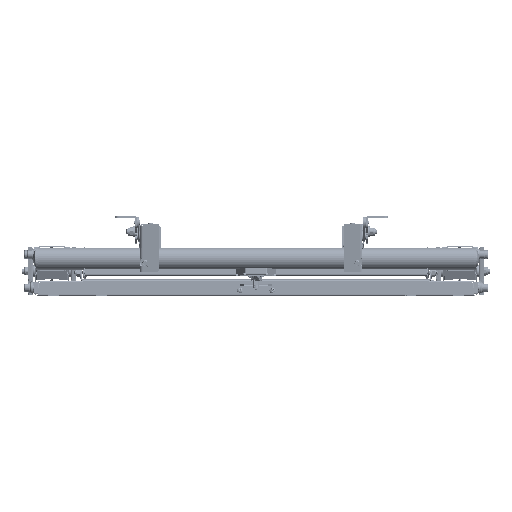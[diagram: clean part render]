
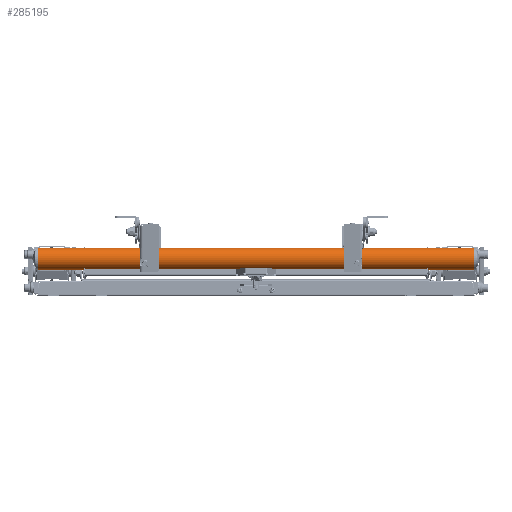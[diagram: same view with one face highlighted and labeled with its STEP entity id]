
A CAD part, front view. The second image highlights one B-rep face of the part: STEP entity #285195.
In plain terms, the highlighted cylindrical face has radius 17.462 mm (diameter 34.925 mm), a partial arc.
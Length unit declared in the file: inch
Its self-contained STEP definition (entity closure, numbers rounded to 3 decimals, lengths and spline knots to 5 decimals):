
#17898 = VERTEX_POINT ( 'NONE', #345858 ) ;
#20085 = LINE ( 'NONE', #391980, #29626 ) ;
#25458 = CARTESIAN_POINT ( 'NONE',  ( 0., 0., 13.47 ) ) ;
#29626 = VECTOR ( 'NONE', #208945, 39.37008 ) ;
#45612 = EDGE_LOOP ( 'NONE', ( #158399, #168274, #143125, #281631 ) ) ;
#56106 = EDGE_CURVE ( 'NONE', #384491, #103528, #311392, .T. ) ;
#56195 = DIRECTION ( 'NONE',  ( -1., 0., 0. ) ) ;
#56353 = LINE ( 'NONE', #132022, #128043 ) ;
#58953 = EDGE_CURVE ( 'NONE', #152020, #17898, #391955, .T. ) ;
#68373 = EDGE_CURVE ( 'NONE', #152020, #384491, #20085, .T. ) ;
#84865 = EDGE_CURVE ( 'NONE', #17898, #103528, #56353, .T. ) ;
#90348 = CARTESIAN_POINT ( 'NONE',  ( 0., 0., -13.47 ) ) ;
#103528 = VERTEX_POINT ( 'NONE', #389852 ) ;
#121079 = DIRECTION ( 'NONE',  ( 1., 0., 0. ) ) ;
#128043 = VECTOR ( 'NONE', #162717, 39.37008 ) ;
#128777 = CYLINDRICAL_SURFACE ( 'NONE', #234157, 0.6875 ) ;
#132022 = CARTESIAN_POINT ( 'NONE',  ( -0.6875, 0., 13.47 ) ) ;
#143125 = ORIENTED_EDGE ( 'NONE', *, *, #56106, .T. ) ;
#147874 = CARTESIAN_POINT ( 'NONE',  ( 0., 0., 13.47 ) ) ;
#152020 = VERTEX_POINT ( 'NONE', #178822 ) ;
#158399 = ORIENTED_EDGE ( 'NONE', *, *, #58953, .F. ) ;
#162717 = DIRECTION ( 'NONE',  ( 0., 0., -1. ) ) ;
#168274 = ORIENTED_EDGE ( 'NONE', *, *, #68373, .T. ) ;
#178555 = DIRECTION ( 'NONE',  ( 1., 0., 0. ) ) ;
#178822 = CARTESIAN_POINT ( 'NONE',  ( 0.6875, 0., 13.47 ) ) ;
#202642 = CARTESIAN_POINT ( 'NONE',  ( 0.6875, 0., -13.47 ) ) ;
#208945 = DIRECTION ( 'NONE',  ( 0., 0., -1. ) ) ;
#234157 = AXIS2_PLACEMENT_3D ( 'NONE', #25458, #362133, #56195 ) ;
#252426 = AXIS2_PLACEMENT_3D ( 'NONE', #90348, #304083, #121079 ) ;
#281631 = ORIENTED_EDGE ( 'NONE', *, *, #84865, .F. ) ;
#285195 = ADVANCED_FACE ( 'NONE', ( #372536 ), #128777, .T. ) ;
#304083 = DIRECTION ( 'NONE',  ( 0., 0., 1. ) ) ;
#311392 = CIRCLE ( 'NONE', #252426, 0.6875 ) ;
#345858 = CARTESIAN_POINT ( 'NONE',  ( -0.6875, 0., 13.47 ) ) ;
#355416 = AXIS2_PLACEMENT_3D ( 'NONE', #147874, #361622, #178555 ) ;
#361622 = DIRECTION ( 'NONE',  ( 0., 0., 1. ) ) ;
#362133 = DIRECTION ( 'NONE',  ( 0., 0., -1. ) ) ;
#372536 = FACE_OUTER_BOUND ( 'NONE', #45612, .T. ) ;
#384491 = VERTEX_POINT ( 'NONE', #202642 ) ;
#389852 = CARTESIAN_POINT ( 'NONE',  ( -0.6875, 0., -13.47 ) ) ;
#391955 = CIRCLE ( 'NONE', #355416, 0.6875 ) ;
#391980 = CARTESIAN_POINT ( 'NONE',  ( 0.6875, 0., 13.47 ) ) ;
